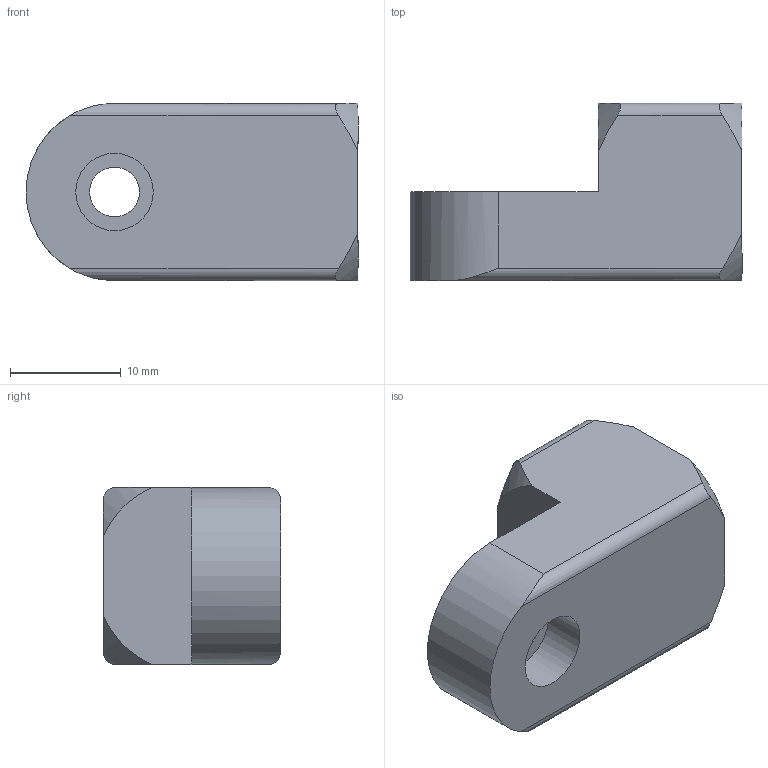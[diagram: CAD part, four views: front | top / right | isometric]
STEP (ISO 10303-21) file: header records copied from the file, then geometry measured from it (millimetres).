
FILE_DESCRIPTION( ( 'STEP AP203' ), '1' );
FILE_NAME( 'C:/Temp/Ganter_Step_05_03_2020/data/3_7/gn_484/Attachment clamp mounting GN 484-M6-16-ELS.stp', '2020-03-12T14:46:59', ( 'License CC BY-ND 4.0' ), ( 'CADENAS' ), ' ', 'PARTsolutions', ' ' );
FILE_SCHEMA( ( 'CONFIG_CONTROL_DESIGN' ) );
Length unit declared in the file: millimetre
Products named in the file (1): _Attachment clamp mounting GN 484-M6-16-ELS
Bounding box: 30 x 16 x 16 mm (x, y, z)
Volume: 4775.9 mm3; surface area: 2263.2 mm2
Topology: 1 solids, 1 shells, 25 faces, 60 edges, 40 vertices
Faces by surface type: plane 10, cylinder 9, cone 6
Full cylindrical faces by diameter (mm): 4.5 x1, 4.917 x1, 7 x2
Entity records: 872 total; most frequent: CARTESIAN_POINT 276, ORIENTED_EDGE 112, DIRECTION 104, EDGE_CURVE 56, AXIS2_PLACEMENT_3D 42, VERTEX_POINT 40, EDGE_LOOP 34, FACE_OUTER_BOUND 29
